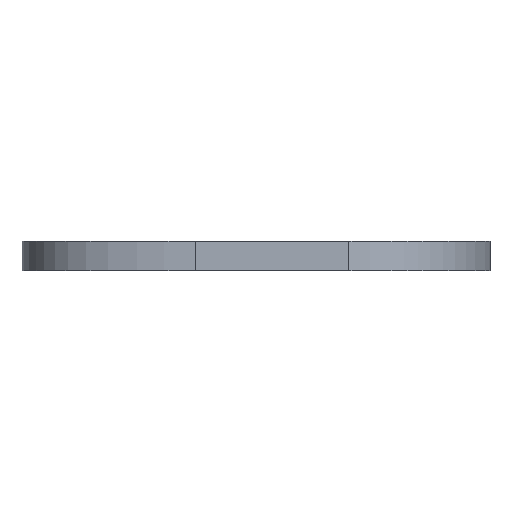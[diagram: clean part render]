
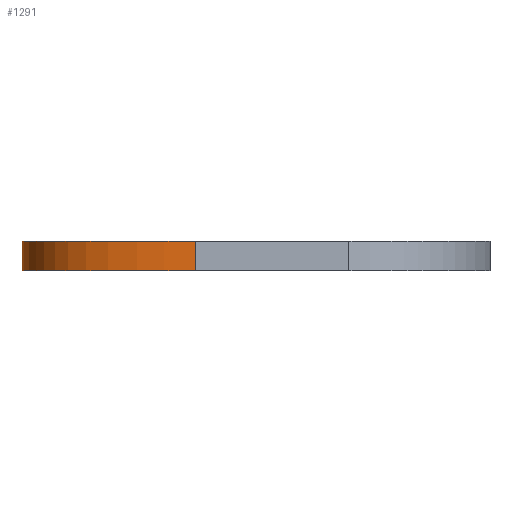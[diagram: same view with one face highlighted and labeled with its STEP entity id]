
A CAD part, left-side view. The second image highlights one B-rep face of the part: STEP entity #1291.
In plain terms, the highlighted free-form (B-spline) face has degree [5, 1] with [15, 2] control points.
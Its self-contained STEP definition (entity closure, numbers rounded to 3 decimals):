
#53=(
BOUNDED_CURVE()
B_SPLINE_CURVE(5,(#2007,#2008,#2009,#2010,#2011,#2012,#2013,#2014,#2015,
#2016,#2017,#2018,#2019,#2020,#2021),.UNSPECIFIED.,.F.,.F.)
B_SPLINE_CURVE_WITH_KNOTS((6,1,1,1,1,1,1,1,1,1,6),(0.,0.1,0.2,0.3,0.4,0.5,
0.6,0.7,0.8,0.9,1.),.UNSPECIFIED.)
CURVE()
GEOMETRIC_REPRESENTATION_ITEM()
RATIONAL_B_SPLINE_CURVE((1.,1.,1.,1.,1.,1.,1.,1.,1.,1.,1.,1.,1.,1.,1.))
REPRESENTATION_ITEM('')
);
#54=(
BOUNDED_CURVE()
B_SPLINE_CURVE(5,(#2023,#2024,#2025,#2026,#2027,#2028,#2029,#2030,#2031,
#2032,#2033,#2034,#2035,#2036,#2037),.UNSPECIFIED.,.F.,.F.)
B_SPLINE_CURVE_WITH_KNOTS((6,1,1,1,1,1,1,1,1,1,6),(0.,0.1,0.2,0.3,0.4,0.5,
0.6,0.7,0.8,0.9,1.),.UNSPECIFIED.)
CURVE()
GEOMETRIC_REPRESENTATION_ITEM()
RATIONAL_B_SPLINE_CURVE((1.,1.,1.,1.,1.,1.,1.,1.,1.,1.,1.,1.,1.,1.,1.))
REPRESENTATION_ITEM('')
);
#61=(
BOUNDED_SURFACE()
B_SPLINE_SURFACE(5,1,((#1976,#1977),(#1978,#1979),(#1980,#1981),(#1982,
#1983),(#1984,#1985),(#1986,#1987),(#1988,#1989),(#1990,#1991),(#1992,#1993),
(#1994,#1995),(#1996,#1997),(#1998,#1999),(#2000,#2001),(#2002,#2003),(#2004,
#2005)),.UNSPECIFIED.,.F.,.F.,.F.)
B_SPLINE_SURFACE_WITH_KNOTS((6,1,1,1,1,1,1,1,1,1,6),(2,2),(0.,0.1,0.2,0.3,
0.4,0.5,0.6,0.7,0.8,0.9,1.),(0.,0.4),.UNSPECIFIED.)
GEOMETRIC_REPRESENTATION_ITEM()
RATIONAL_B_SPLINE_SURFACE(((1.,1.),(1.,1.),(1.,1.),(1.,1.),(1.,1.),(1.,
1.),(1.,1.),(1.,1.),(1.,1.),(1.,1.),(1.,1.),(1.,1.),(1.,1.),(1.,1.),(1.,
1.)))
REPRESENTATION_ITEM('')
SURFACE()
);
#142=FACE_OUTER_BOUND('',#203,.T.);
#203=EDGE_LOOP('',(#1023,#1024,#1025,#1026));
#368=LINE('',#1975,#515);
#369=LINE('',#2038,#516);
#515=VECTOR('',#1645,10.);
#516=VECTOR('',#1646,10.);
#639=VERTEX_POINT('',#1969);
#641=VERTEX_POINT('',#1973);
#642=VERTEX_POINT('',#2006);
#643=VERTEX_POINT('',#2022);
#802=EDGE_CURVE('',#639,#641,#368,.T.);
#803=EDGE_CURVE('',#642,#639,#53,.T.);
#804=EDGE_CURVE('',#643,#641,#54,.T.);
#805=EDGE_CURVE('',#642,#643,#369,.T.);
#1023=ORIENTED_EDGE('',*,*,#803,.T.);
#1024=ORIENTED_EDGE('',*,*,#802,.T.);
#1025=ORIENTED_EDGE('',*,*,#804,.F.);
#1026=ORIENTED_EDGE('',*,*,#805,.F.);
#1291=ADVANCED_FACE('',(#142),#61,.T.);
#1645=DIRECTION('',(0.,0.,1.));
#1646=DIRECTION('',(0.,0.,1.));
#1969=CARTESIAN_POINT('',(20.928,-2.623,0.));
#1973=CARTESIAN_POINT('',(20.928,-2.623,4.));
#1975=CARTESIAN_POINT('',(20.928,-2.623,0.));
#1976=CARTESIAN_POINT('Ctrl Pts',(40.181,20.978,0.));
#1977=CARTESIAN_POINT('Ctrl Pts',(40.181,20.978,4.));
#1978=CARTESIAN_POINT('Ctrl Pts',(39.518,20.964,0.));
#1979=CARTESIAN_POINT('Ctrl Pts',(39.518,20.964,4.));
#1980=CARTESIAN_POINT('Ctrl Pts',(38.241,20.923,0.));
#1981=CARTESIAN_POINT('Ctrl Pts',(38.241,20.923,4.));
#1982=CARTESIAN_POINT('Ctrl Pts',(36.473,20.814,0.));
#1983=CARTESIAN_POINT('Ctrl Pts',(36.473,20.814,4.));
#1984=CARTESIAN_POINT('Ctrl Pts',(34.381,20.571,0.));
#1985=CARTESIAN_POINT('Ctrl Pts',(34.381,20.571,4.));
#1986=CARTESIAN_POINT('Ctrl Pts',(32.06,20.048,0.));
#1987=CARTESIAN_POINT('Ctrl Pts',(32.06,20.048,4.));
#1988=CARTESIAN_POINT('Ctrl Pts',(29.876,19.21,0.));
#1989=CARTESIAN_POINT('Ctrl Pts',(29.876,19.21,4.));
#1990=CARTESIAN_POINT('Ctrl Pts',(27.728,17.921,0.));
#1991=CARTESIAN_POINT('Ctrl Pts',(27.728,17.921,4.));
#1992=CARTESIAN_POINT('Ctrl Pts',(25.64,16.005,0.));
#1993=CARTESIAN_POINT('Ctrl Pts',(25.64,16.005,4.));
#1994=CARTESIAN_POINT('Ctrl Pts',(23.729,13.253,0.));
#1995=CARTESIAN_POINT('Ctrl Pts',(23.729,13.253,4.));
#1996=CARTESIAN_POINT('Ctrl Pts',(22.161,9.438,0.));
#1997=CARTESIAN_POINT('Ctrl Pts',(22.161,9.438,4.));
#1998=CARTESIAN_POINT('Ctrl Pts',(21.325,5.356,0.));
#1999=CARTESIAN_POINT('Ctrl Pts',(21.325,5.356,4.));
#2000=CARTESIAN_POINT('Ctrl Pts',(21.,1.634,0.));
#2001=CARTESIAN_POINT('Ctrl Pts',(21.,1.634,4.));
#2002=CARTESIAN_POINT('Ctrl Pts',(20.928,-1.153,0.));
#2003=CARTESIAN_POINT('Ctrl Pts',(20.928,-1.153,4.));
#2004=CARTESIAN_POINT('Ctrl Pts',(20.928,-2.623,0.));
#2005=CARTESIAN_POINT('Ctrl Pts',(20.928,-2.623,4.));
#2006=CARTESIAN_POINT('',(40.181,20.978,0.));
#2007=CARTESIAN_POINT('Ctrl Pts',(40.181,20.978,0.));
#2008=CARTESIAN_POINT('Ctrl Pts',(39.518,20.964,0.));
#2009=CARTESIAN_POINT('Ctrl Pts',(38.241,20.923,0.));
#2010=CARTESIAN_POINT('Ctrl Pts',(36.473,20.814,0.));
#2011=CARTESIAN_POINT('Ctrl Pts',(34.381,20.571,0.));
#2012=CARTESIAN_POINT('Ctrl Pts',(32.06,20.048,0.));
#2013=CARTESIAN_POINT('Ctrl Pts',(29.876,19.21,0.));
#2014=CARTESIAN_POINT('Ctrl Pts',(27.728,17.921,0.));
#2015=CARTESIAN_POINT('Ctrl Pts',(25.64,16.005,0.));
#2016=CARTESIAN_POINT('Ctrl Pts',(23.729,13.253,0.));
#2017=CARTESIAN_POINT('Ctrl Pts',(22.161,9.438,0.));
#2018=CARTESIAN_POINT('Ctrl Pts',(21.325,5.356,0.));
#2019=CARTESIAN_POINT('Ctrl Pts',(21.,1.634,0.));
#2020=CARTESIAN_POINT('Ctrl Pts',(20.928,-1.153,0.));
#2021=CARTESIAN_POINT('Ctrl Pts',(20.928,-2.623,0.));
#2022=CARTESIAN_POINT('',(40.181,20.978,4.));
#2023=CARTESIAN_POINT('Ctrl Pts',(40.181,20.978,4.));
#2024=CARTESIAN_POINT('Ctrl Pts',(39.518,20.964,4.));
#2025=CARTESIAN_POINT('Ctrl Pts',(38.241,20.923,4.));
#2026=CARTESIAN_POINT('Ctrl Pts',(36.473,20.814,4.));
#2027=CARTESIAN_POINT('Ctrl Pts',(34.381,20.571,4.));
#2028=CARTESIAN_POINT('Ctrl Pts',(32.06,20.048,4.));
#2029=CARTESIAN_POINT('Ctrl Pts',(29.876,19.21,4.));
#2030=CARTESIAN_POINT('Ctrl Pts',(27.728,17.921,4.));
#2031=CARTESIAN_POINT('Ctrl Pts',(25.64,16.005,4.));
#2032=CARTESIAN_POINT('Ctrl Pts',(23.729,13.253,4.));
#2033=CARTESIAN_POINT('Ctrl Pts',(22.161,9.438,4.));
#2034=CARTESIAN_POINT('Ctrl Pts',(21.325,5.356,4.));
#2035=CARTESIAN_POINT('Ctrl Pts',(21.,1.634,4.));
#2036=CARTESIAN_POINT('Ctrl Pts',(20.928,-1.153,4.));
#2037=CARTESIAN_POINT('Ctrl Pts',(20.928,-2.623,4.));
#2038=CARTESIAN_POINT('',(40.181,20.978,0.));
